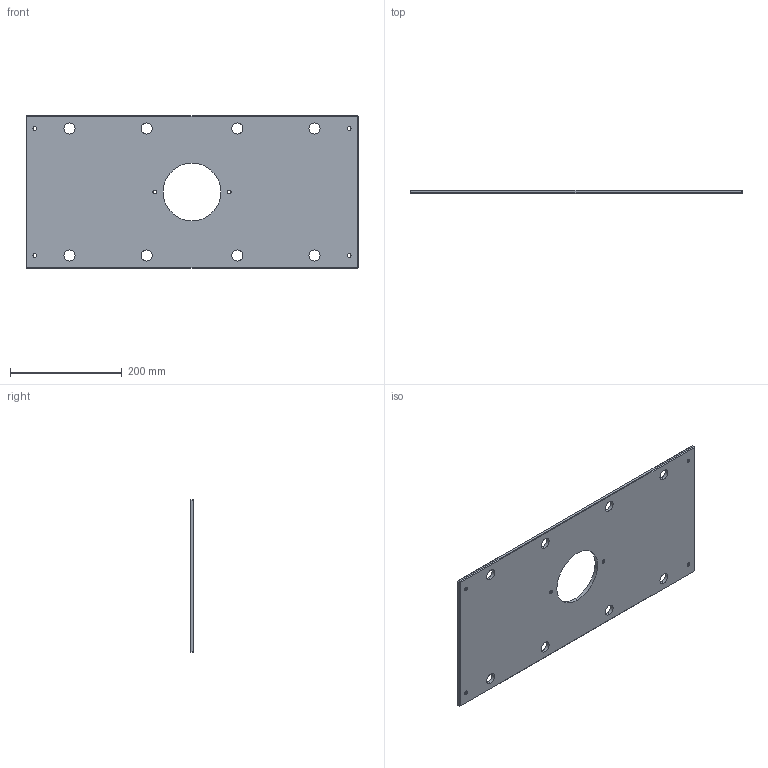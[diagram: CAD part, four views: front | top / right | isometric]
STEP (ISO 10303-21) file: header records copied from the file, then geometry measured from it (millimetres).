
FILE_DESCRIPTION (( 'STEP AP214' ), '1' );
FILE_NAME ('ME-0619-CH-1123.STEP', '2020-02-10T16:14:14', ( '' ), ( '' ), 'SwSTEP 2.0', 'SolidWorks 2018', '' );
FILE_SCHEMA (( 'AUTOMOTIVE_DESIGN' ));
Length unit declared in the file: inch
Products named in the file (1): ME-0619-CH-1123
Bounding box: 593.73 x 6.35 x 273.05 mm (x, y, z)
Volume: 955101.3 mm3; surface area: 316427.6 mm2
Topology: 1 solids, 1 shells, 68 faces, 162 edges, 96 vertices
Faces by surface type: cylinder 30, plane 26, cone 12
Entity records: 2050 total; most frequent: DIRECTION 372, CARTESIAN_POINT 327, ORIENTED_EDGE 324, EDGE_CURVE 162, AXIS2_PLACEMENT_3D 141, EDGE_LOOP 98, VERTEX_POINT 96, LINE 90
